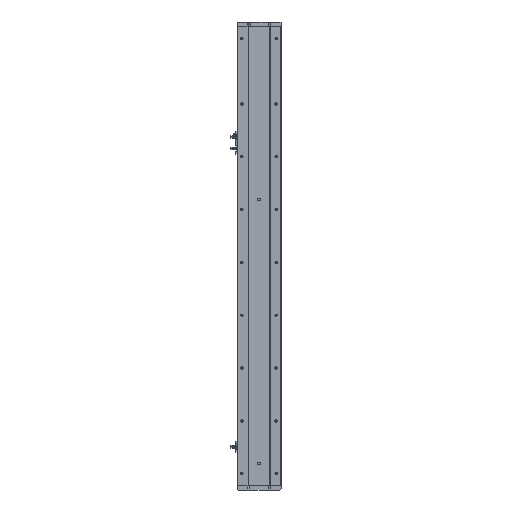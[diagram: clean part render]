
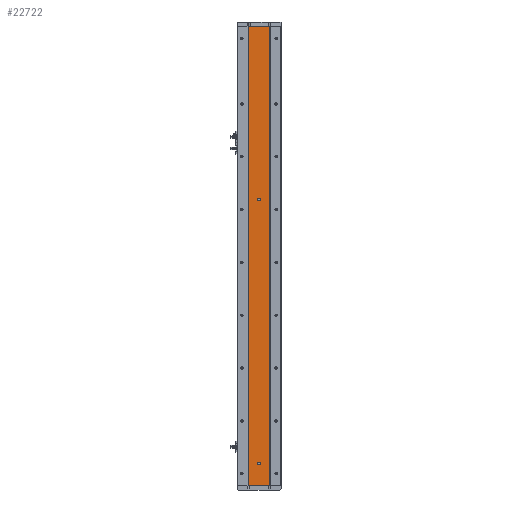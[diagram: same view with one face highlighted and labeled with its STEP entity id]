
A CAD part, left-side view. The second image highlights one B-rep face of the part: STEP entity #22722.
In plain terms, the highlighted planar face has unit normal (-1, 0, 0).
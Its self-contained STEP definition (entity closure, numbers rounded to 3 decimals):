
#7 = PLANE ( 'NONE',  #32216 ) ;
#1404 = CARTESIAN_POINT ( 'NONE',  ( -18.926, 0., 647. ) ) ;
#1440 = AXIS2_PLACEMENT_3D ( 'NONE', #12900, #34770, #16024 ) ;
#1754 = AXIS2_PLACEMENT_3D ( 'NONE', #21712, #3069, #24838 ) ;
#1777 = VERTEX_POINT ( 'NONE', #18479 ) ;
#2422 = VERTEX_POINT ( 'NONE', #37839 ) ;
#2649 = LINE ( 'NONE', #9446, #33873 ) ;
#3069 = DIRECTION ( 'NONE',  ( -1., 0., 0. ) ) ;
#3249 = DIRECTION ( 'NONE',  ( 1., 0., 0. ) ) ;
#4286 = CARTESIAN_POINT ( 'NONE',  ( -18.926, 24.785, 0. ) ) ;
#4347 = EDGE_CURVE ( 'NONE', #13103, #38862, #39658, .T. ) ;
#4526 = VERTEX_POINT ( 'NONE', #1404 ) ;
#4841 = CARTESIAN_POINT ( 'NONE',  ( -18.926, -24.785, 0. ) ) ;
#5519 = ORIENTED_EDGE ( 'NONE', *, *, #4347, .F. ) ;
#6675 = AXIS2_PLACEMENT_3D ( 'NONE', #11627, #33493, #14755 ) ;
#7393 = VECTOR ( 'NONE', #38103, 1000. ) ;
#9033 = VERTEX_POINT ( 'NONE', #9134 ) ;
#9134 = CARTESIAN_POINT ( 'NONE',  ( -18.926, 0., 653. ) ) ;
#9446 = CARTESIAN_POINT ( 'NONE',  ( -18.926, 24.785, 1043. ) ) ;
#9515 = AXIS2_PLACEMENT_3D ( 'NONE', #13809, #35689, #16957 ) ;
#9516 = CIRCLE ( 'NONE', #9515, 3. ) ;
#10779 = LINE ( 'NONE', #30677, #34726 ) ;
#11627 = CARTESIAN_POINT ( 'NONE',  ( -18.926, 0., 650. ) ) ;
#11748 = EDGE_CURVE ( 'NONE', #9033, #4526, #9516, .T. ) ;
#11893 = CARTESIAN_POINT ( 'NONE',  ( -18.926, 24.785, 0. ) ) ;
#11958 = EDGE_CURVE ( 'NONE', #4526, #9033, #39355, .T. ) ;
#12123 = EDGE_CURVE ( 'NONE', #13530, #2422, #38842, .T. ) ;
#12565 = DIRECTION ( 'NONE',  ( 0., -1., 0. ) ) ;
#12900 = CARTESIAN_POINT ( 'NONE',  ( -18.926, 0., 50. ) ) ;
#13103 = VERTEX_POINT ( 'NONE', #34571 ) ;
#13464 = ORIENTED_EDGE ( 'NONE', *, *, #11958, .F. ) ;
#13530 = VERTEX_POINT ( 'NONE', #17886 ) ;
#13809 = CARTESIAN_POINT ( 'NONE',  ( -18.926, 0., 650. ) ) ;
#13976 = EDGE_CURVE ( 'NONE', #1777, #13103, #2649, .T. ) ;
#14755 = DIRECTION ( 'NONE',  ( 0., 0., 1. ) ) ;
#16024 = DIRECTION ( 'NONE',  ( 0., 0., 1. ) ) ;
#16957 = DIRECTION ( 'NONE',  ( 0., 0., 1. ) ) ;
#17886 = CARTESIAN_POINT ( 'NONE',  ( -18.926, 0., 47. ) ) ;
#18479 = CARTESIAN_POINT ( 'NONE',  ( -18.926, 24.785, 1043. ) ) ;
#19099 = ORIENTED_EDGE ( 'NONE', *, *, #23098, .T. ) ;
#19350 = CARTESIAN_POINT ( 'NONE',  ( -18.926, -24.785, 1043. ) ) ;
#21712 = CARTESIAN_POINT ( 'NONE',  ( -18.926, 0., 50. ) ) ;
#21912 = CARTESIAN_POINT ( 'NONE',  ( -18.926, 24.785, 1043. ) ) ;
#22058 = ORIENTED_EDGE ( 'NONE', *, *, #11748, .F. ) ;
#22722 = ADVANCED_FACE ( 'NONE', ( #31676, #23385, #40014 ), #7, .F. ) ;
#23098 = EDGE_CURVE ( 'NONE', #26203, #38862, #32992, .T. ) ;
#23385 = FACE_BOUND ( 'NONE', #33404, .T. ) ;
#23830 = CIRCLE ( 'NONE', #1440, 3. ) ;
#24448 = DIRECTION ( 'NONE',  ( 0., -1., 0. ) ) ;
#24641 = VECTOR ( 'NONE', #24448, 1000. ) ;
#24838 = DIRECTION ( 'NONE',  ( 0., 0., 1. ) ) ;
#25014 = DIRECTION ( 'NONE',  ( 0., 0., -1. ) ) ;
#26203 = VERTEX_POINT ( 'NONE', #4286 ) ;
#27159 = EDGE_CURVE ( 'NONE', #1777, #26203, #10779, .T. ) ;
#28558 = EDGE_CURVE ( 'NONE', #2422, #13530, #23830, .T. ) ;
#29945 = EDGE_LOOP ( 'NONE', ( #19099, #5519, #36416, #35425 ) ) ;
#30677 = CARTESIAN_POINT ( 'NONE',  ( -18.926, 24.785, 1043. ) ) ;
#31676 = FACE_BOUND ( 'NONE', #35999, .T. ) ;
#32216 = AXIS2_PLACEMENT_3D ( 'NONE', #21912, #3249, #25014 ) ;
#32992 = LINE ( 'NONE', #11893, #24641 ) ;
#33404 = EDGE_LOOP ( 'NONE', ( #34579, #35464 ) ) ;
#33493 = DIRECTION ( 'NONE',  ( -1., 0., 0. ) ) ;
#33817 = DIRECTION ( 'NONE',  ( 0., 0., -1. ) ) ;
#33873 = VECTOR ( 'NONE', #12565, 1000. ) ;
#34571 = CARTESIAN_POINT ( 'NONE',  ( -18.926, -24.785, 1043. ) ) ;
#34579 = ORIENTED_EDGE ( 'NONE', *, *, #28558, .F. ) ;
#34726 = VECTOR ( 'NONE', #33817, 1000. ) ;
#34770 = DIRECTION ( 'NONE',  ( -1., 0., 0. ) ) ;
#35425 = ORIENTED_EDGE ( 'NONE', *, *, #27159, .T. ) ;
#35464 = ORIENTED_EDGE ( 'NONE', *, *, #12123, .F. ) ;
#35689 = DIRECTION ( 'NONE',  ( -1., 0., 0. ) ) ;
#35999 = EDGE_LOOP ( 'NONE', ( #22058, #13464 ) ) ;
#36416 = ORIENTED_EDGE ( 'NONE', *, *, #13976, .F. ) ;
#37839 = CARTESIAN_POINT ( 'NONE',  ( -18.926, 0., 53. ) ) ;
#38103 = DIRECTION ( 'NONE',  ( 0., 0., -1. ) ) ;
#38842 = CIRCLE ( 'NONE', #1754, 3. ) ;
#38862 = VERTEX_POINT ( 'NONE', #4841 ) ;
#39355 = CIRCLE ( 'NONE', #6675, 3. ) ;
#39658 = LINE ( 'NONE', #19350, #7393 ) ;
#40014 = FACE_OUTER_BOUND ( 'NONE', #29945, .T. ) ;
